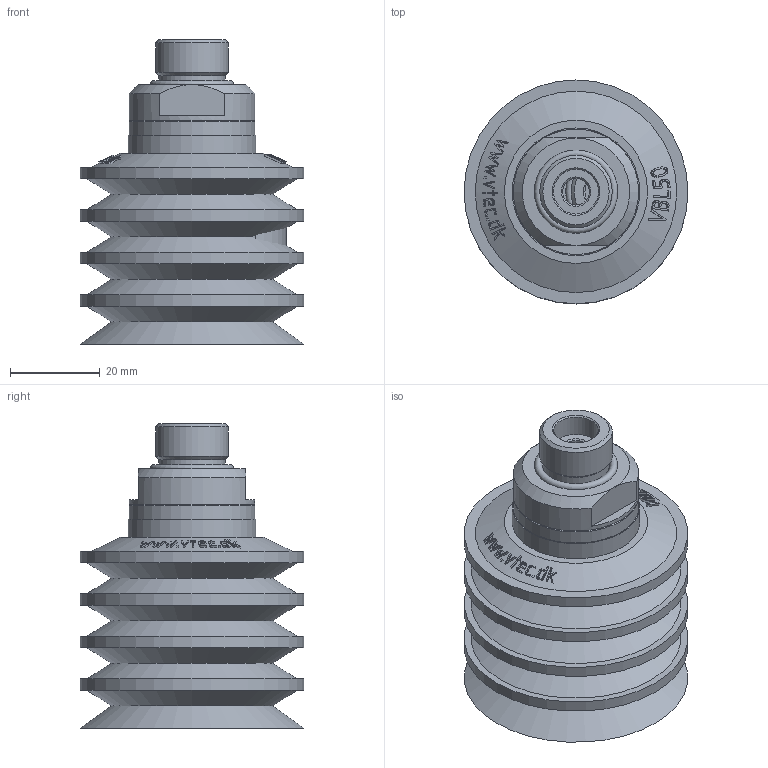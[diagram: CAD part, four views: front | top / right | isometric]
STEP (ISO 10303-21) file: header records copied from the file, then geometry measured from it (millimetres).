
FILE_DESCRIPTION( ( 'STEP AP203' ), '1' );
FILE_NAME( 'C:/撲啗紫賊-02/3D-蘋驍煎斜/Vacuum Pad/VBL series/VBL50-38M.stp', '2006-04-24T11:53:25', ( ' ' ), ( ' ' ), 'XStep 1.0', ' ', ' ' );
FILE_SCHEMA( ( 'CONFIG_CONTROL_DESIGN) ( )' ) );
Length unit declared in the file: metre
Products named in the file (3): Assem1; 1; 2
Bounding box: 50 x 50 x 68 mm (x, y, z)
Volume: 54177.4 mm3; surface area: 54586.8 mm2
Topology: 4 solids, 4 shells, 468 faces, 1084 edges, 708 vertices
Faces by surface type: bspline 264, cone 102, plane 60, cylinder 40, torus 2
Full cylindrical faces by diameter (mm): 6 x2, 9 x2, 10 x4, 11 x2, 11.8 x6, 12.3 x2, 14.5 x2, 14.8 x2, 15 x2, 16.2 x2, 28 x4, 28.516 x2, 50 x8
Entity records: 12350 total; most frequent: CARTESIAN_POINT 8069, ORIENTED_EDGE 968, EDGE_CURVE 484, DIRECTION 456, VERTEX_POINT 348, EDGE_LOOP 332, B_SPLINE_CURVE_WITH_KNOTS 318, FACE_OUTER_BOUND 257
